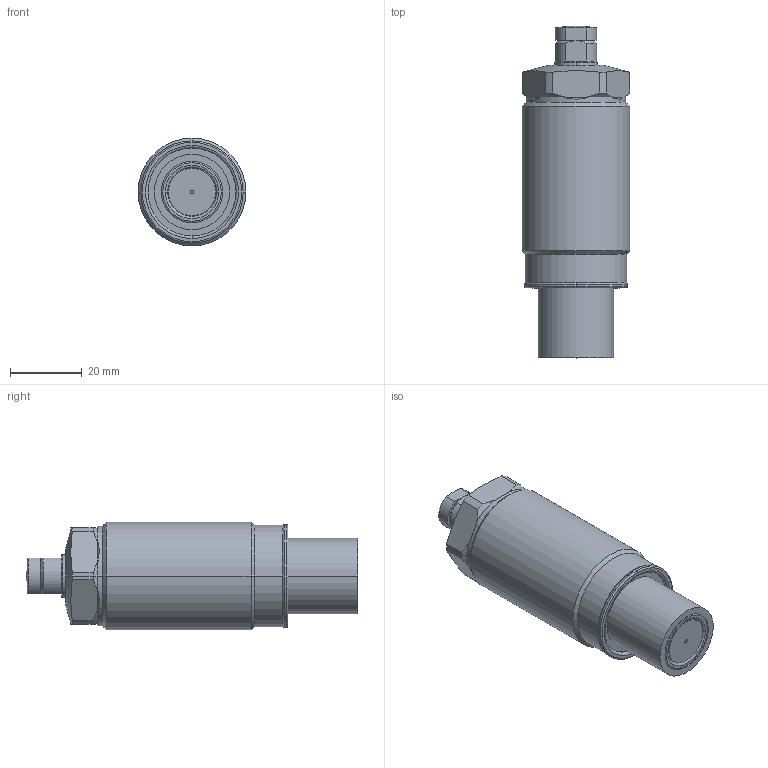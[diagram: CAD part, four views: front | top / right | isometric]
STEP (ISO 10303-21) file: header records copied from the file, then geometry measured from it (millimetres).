
FILE_DESCRIPTION(/* description */ (''),/* implementation_level */ '2;1');
FILE_NAME(/* name */ 'TSC30-Q_stp.stp',/* time_stamp */ '2024-11-02T12:40:21+08:00',/* author */ (''),/* organization */ (''),/* preprocessor_version */ 'ST-DEVELOPER v16.7',/* originating_system */ 'SIEMENS PLM Software NX 12.0',/* authorisation */ '');
FILE_SCHEMA (('AP203_CONFIGURATION_CONTROLLED_3D_DESIGN_OF_MECHANICAL_PARTS_AND_ASSEMBLIES_MIM_LF { 1 0 10303 403 2 1 2}'));
Length unit declared in the file: millimetre
Products named in the file (6): TSC30-Q-05; TSC30-Q-04; TSC30-Q-03; TSC30-Q-01; TSC30-Q-02; TSC03-Q_stp
Assembly tree (5 placements, depth 2):
  TSC03-Q_stp
    TSC30-Q-02
    TSC30-Q-01
    TSC30-Q-03
    TSC30-Q-04
    TSC30-Q-05
Bounding box: 30 x 92.5 x 30 mm (x, y, z)
Volume: 48713.9 mm3; surface area: 11722.9 mm2
Topology: 5 solids, 5 shells, 133 faces, 299 edges, 186 vertices
Faces by surface type: cylinder 49, plane 37, cone 25, torus 20, sphere 2
Entity records: 4459 total; most frequent: CARTESIAN_POINT 720, DIRECTION 712, ORIENTED_EDGE 598, AXIS2_PLACEMENT_3D 306, EDGE_CURVE 299, VERTEX_POINT 186, CIRCLE 167, EDGE_LOOP 149
